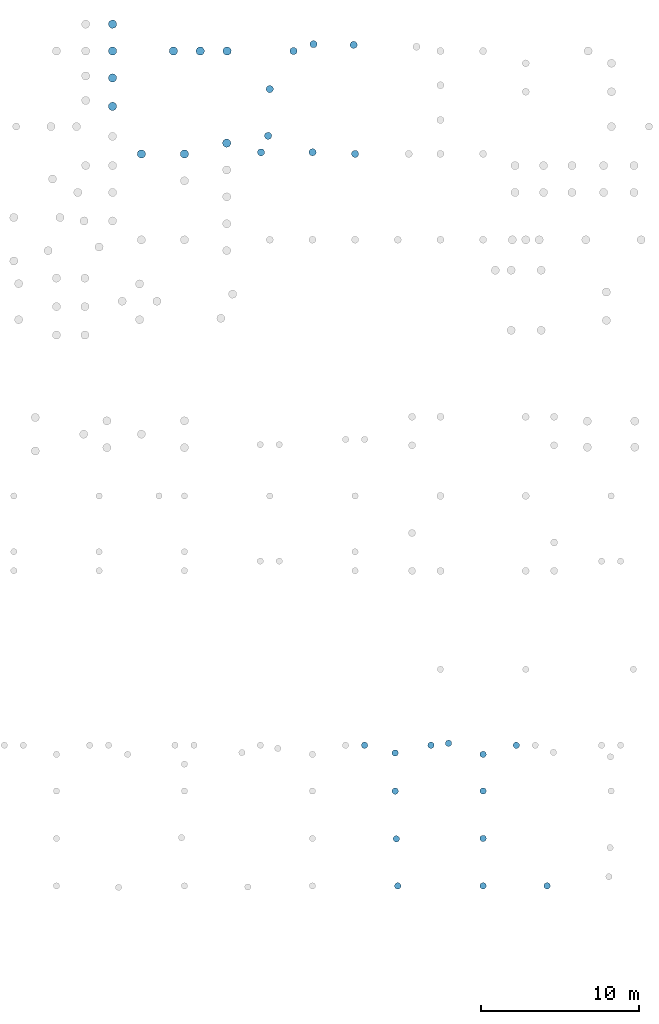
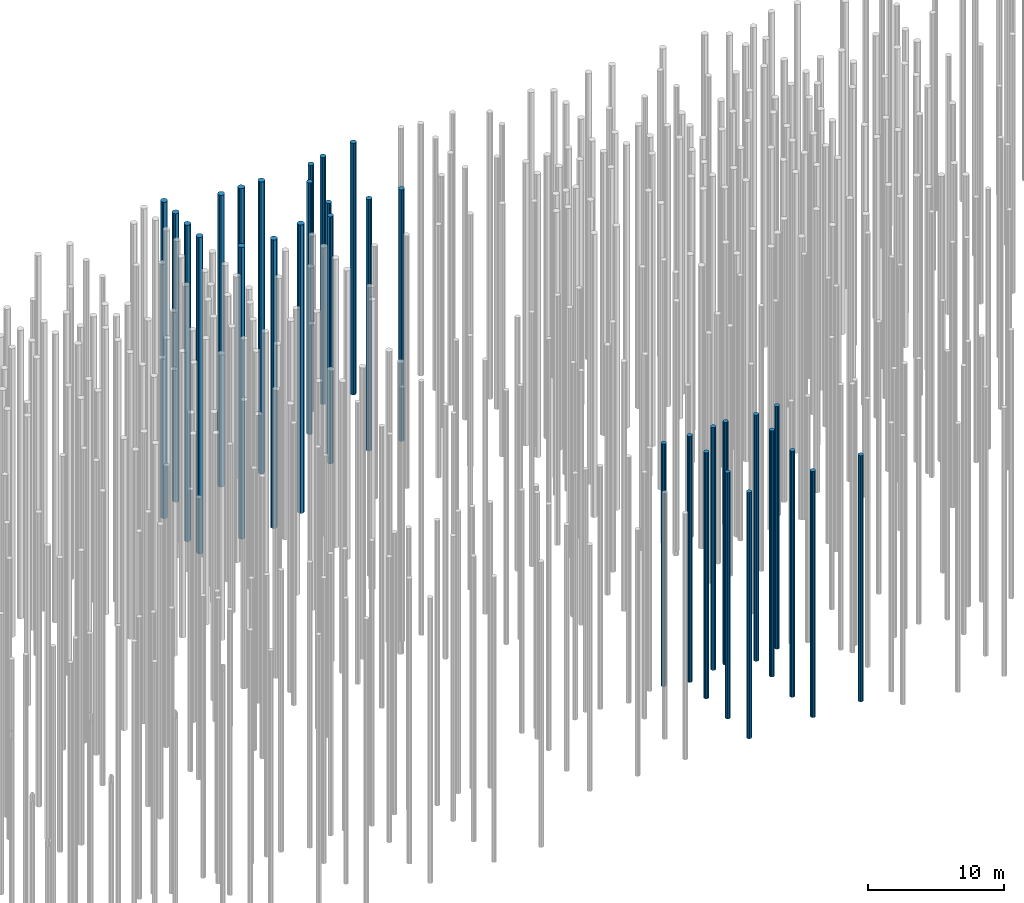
# One storey, part 10 of 20: 31 piles.
"""IFC2X3 building model written with IfcOpenShell, lengths in millimetres."""

from ifc_helpers import new_model, entity, si_unit, converted_unit, derived_unit, direction, frame, origin, place, context, subcontext, project, spatial, polyline, outline, extrude, material, element, save


model = new_model("IFC2X3")

# Units and contexts
model_context = context("Model", 3, precision=0.01, world=origin(), true_north=direction((6.12303176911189e-17, 1.0)))
body_context = subcontext(model_context, "Body", "Model", "MODEL_VIEW")
ifc_project = project(units=[si_unit("LENGTHUNIT", "METRE", prefix="MILLI"), si_unit("AREAUNIT", "SQUARE_METRE"), si_unit("VOLUMEUNIT", "CUBIC_METRE"), converted_unit("PLANEANGLEUNIT", "DEGREE", entity("IfcRatioMeasure", 0.0174532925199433), si_unit("PLANEANGLEUNIT", "RADIAN"), dimensions=[0, 0, 0, 0, 0, 0, 0]), si_unit("MASSUNIT", "GRAM", prefix="KILO"), derived_unit("MASSDENSITYUNIT", [(si_unit("MASSUNIT", "GRAM", prefix="KILO"), 1), (si_unit("LENGTHUNIT", "METRE"), -3)]), si_unit("TIMEUNIT", "SECOND"), si_unit("FREQUENCYUNIT", "HERTZ"), si_unit("THERMODYNAMICTEMPERATUREUNIT", "DEGREE_CELSIUS"), derived_unit("THERMALTRANSMITTANCEUNIT", [(si_unit("MASSUNIT", "GRAM", prefix="KILO"), 1), (si_unit("THERMODYNAMICTEMPERATUREUNIT", "KELVIN"), -1), (si_unit("TIMEUNIT", "SECOND"), -3)]), derived_unit("VOLUMETRICFLOWRATEUNIT", [(si_unit("LENGTHUNIT", "METRE"), 3), (si_unit("TIMEUNIT", "SECOND"), -1)]), si_unit("ELECTRICCURRENTUNIT", "AMPERE"), si_unit("ELECTRICVOLTAGEUNIT", "VOLT"), si_unit("POWERUNIT", "WATT"), si_unit("FORCEUNIT", "NEWTON", prefix="KILO"), si_unit("ILLUMINANCEUNIT", "LUX"), si_unit("LUMINOUSFLUXUNIT", "LUMEN"), si_unit("LUMINOUSINTENSITYUNIT", "CANDELA"), derived_unit("USERDEFINED", [(si_unit("MASSUNIT", "GRAM", prefix="KILO"), -1), (si_unit("LENGTHUNIT", "METRE"), -2), (si_unit("TIMEUNIT", "SECOND"), 3), (si_unit("LUMINOUSFLUXUNIT", "LUMEN"), 1)]), derived_unit("LINEARVELOCITYUNIT", [(si_unit("LENGTHUNIT", "METRE"), 1), (si_unit("TIMEUNIT", "SECOND"), -1)]), si_unit("PRESSUREUNIT", "PASCAL"), derived_unit("USERDEFINED", [(si_unit("LENGTHUNIT", "METRE"), -2), (si_unit("MASSUNIT", "GRAM", prefix="KILO"), 1), (si_unit("TIMEUNIT", "SECOND"), -2)])], contexts=[model_context])

# Site, building, storey
site_placement = place(None, origin())
site = spatial("IfcSite", under=ifc_project, at=site_placement, Name="Default", CompositionType="ELEMENT")
building_placement = place(site_placement, origin())
building = spatial("IfcBuilding", under=site, at=building_placement, Name="niet gebruiken", CompositionType="ELEMENT")
storey_placement = place(building_placement, frame((0.0, 0.0, -4000.0)))
storey = spatial("IfcBuildingStorey", under=building, at=storey_placement, Name="Level t.b.v. palenplan", CompositionType="ELEMENT", Elevation=-4000.0)

# Piles
ifc_material = material(Name="NLRS_f2_beton ihwg")
pile_1_placement = place(storey_placement, origin())
element("IfcPile", 1, at=pile_1_placement, inside=storey, material=ifc_material, Name="NLRS_17.12_SFO_TLB_funderingspaal grondverdringend_gen:Fundex_r410/500", ObjectType="NLRS_17.12_SFO_TLB_funderingspaal grondverdringend_gen:Fundex_r410/500", context=body_context, shape_type="SweptSolid", body=[
    extrude(outline(polyline([(-49.0597111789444, -199.043072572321), (49.0597111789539, -199.043072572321), (135.940144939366, -153.444703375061), (191.678329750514, -72.6940018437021), (203.505319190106, 24.7100194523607), (168.711692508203, 116.4532730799), (95.268250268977, 181.518485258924), (49.0597111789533, 199.043072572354), (-49.0597111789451, 199.043072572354), (-135.940144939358, 153.444703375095), (-191.678329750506, 72.6940018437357), (-203.505319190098, -24.710019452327), (-168.711692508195, -116.453273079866), (-95.2682502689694, -181.51848525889), (-49.0597111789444, -199.043072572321)])), frame((67500.0, 300.0, -19100.0), z_axis=(0.0, 0.0, 1.0), x_axis=(0.239315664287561, -0.970941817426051, 0.0)), (0.0, 0.0, 1.0), 22028.0),
])
pile_2_placement = place(storey_placement, origin())
element("IfcPile", 2, at=pile_2_placement, inside=storey, material=ifc_material, Name="NLRS_17.12_SFO_TLB_funderingspaal grondverdringend_gen:Fundex_r410/500", ObjectType="NLRS_17.12_SFO_TLB_funderingspaal grondverdringend_gen:Fundex_r410/500", context=body_context, shape_type="SweptSolid", body=[
    extrude(outline(polyline([(-49.0597111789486, -199.043072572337), (49.0597111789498, -199.043072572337), (135.940144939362, -153.444703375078), (191.67832975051, -72.6940018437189), (203.505319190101, 24.7100194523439), (168.711692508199, 116.453273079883), (95.2682502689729, 181.518485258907), (49.0597111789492, 199.043072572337), (-49.0597111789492, 199.043072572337), (-135.940144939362, 153.444703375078), (-191.67832975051, 72.6940018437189), (-203.505319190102, -24.7100194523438), (-168.711692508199, -116.453273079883), (-95.2682502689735, -181.518485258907), (-49.0597111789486, -199.043072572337)])), frame((72900.0, 300.0, -19100.0), z_axis=(0.0, 0.0, 1.0), x_axis=(0.239315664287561, -0.970941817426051, 0.0)), (0.0, 0.0, 1.0), 22028.0),
])
pile_3_placement = place(storey_placement, origin())
element("IfcPile", 3, at=pile_3_placement, inside=storey, material=ifc_material, Name="NLRS_17.12_SFO_TLB_funderingspaal grondverdringend_gen:Fundex_r410/500", ObjectType="NLRS_17.12_SFO_TLB_funderingspaal grondverdringend_gen:Fundex_r410/500", context=body_context, shape_type="SweptSolid", body=[
    extrude(outline(polyline([(-49.0597111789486, -199.043072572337), (49.0597111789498, -199.043072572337), (135.940144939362, -153.444703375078), (191.67832975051, -72.6940018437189), (203.505319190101, 24.7100194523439), (168.711692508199, 116.453273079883), (95.2682502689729, 181.518485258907), (49.0597111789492, 199.043072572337), (-49.0597111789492, 199.043072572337), (-135.940144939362, 153.444703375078), (-191.67832975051, 72.6940018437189), (-203.505319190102, -24.7100194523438), (-168.711692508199, -116.453273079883), (-95.2682502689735, -181.518485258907), (-49.0597111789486, -199.043072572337)])), frame((76950.0, 300.0, -19100.0), z_axis=(0.0, 0.0, 1.0), x_axis=(0.239315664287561, -0.970941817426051, 0.0)), (0.0, 0.0, 1.0), 22028.0),
])
pile_4_placement = place(storey_placement, origin())
element("IfcPile", 4, at=pile_4_placement, inside=storey, material=ifc_material, Name="NLRS_17.12_SFO_TLB_funderingspaal grondverdringend_gen:Fundex_r410/500", ObjectType="NLRS_17.12_SFO_TLB_funderingspaal grondverdringend_gen:Fundex_r410/500", context=body_context, shape_type="SweptSolid", body=[
    extrude(outline(polyline([(-49.0597111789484, -199.043072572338), (49.0597111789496, -199.043072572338), (135.940144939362, -153.444703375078), (191.67832975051, -72.6940018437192), (203.505319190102, 24.7100194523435), (168.711692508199, 116.453273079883), (95.2682502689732, 181.518485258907), (49.0597111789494, 199.043072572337), (-49.0597111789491, 199.043072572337), (-135.940144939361, 153.444703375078), (-191.678329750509, 72.6940018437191), (-203.505319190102, -24.7100194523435), (-168.711692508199, -116.453273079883), (-95.2682502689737, -181.518485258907), (-49.0597111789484, -199.043072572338)])), frame((67408.0005445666, 3276.01681129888, -19100.0), z_axis=(0.0, 0.0, 1.0), x_axis=(0.239315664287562, -0.970941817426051, 0.0)), (0.0, 0.0, 1.0), 22028.0),
])
pile_5_placement = place(storey_placement, origin())
element("IfcPile", 5, at=pile_5_placement, inside=storey, material=ifc_material, Name="NLRS_17.12_SFO_TLB_funderingspaal grondverdringend_gen:Fundex_r410/500", ObjectType="NLRS_17.12_SFO_TLB_funderingspaal grondverdringend_gen:Fundex_r410/500", context=body_context, shape_type="SweptSolid", body=[
    extrude(outline(polyline([(-49.0597111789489, -199.043072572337), (49.0597111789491, -199.043072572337), (135.940144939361, -153.444703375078), (191.678329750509, -72.6940018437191), (203.505319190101, 24.7100194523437), (168.711692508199, 116.453273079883), (95.2682502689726, 181.518485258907), (49.0597111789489, 199.043072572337), (-49.0597111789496, 199.043072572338), (-135.940144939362, 153.444703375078), (-191.67832975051, 72.6940018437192), (-203.505319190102, -24.7100194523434), (-168.7116925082, -116.453273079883), (-95.2682502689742, -181.518485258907), (-49.0597111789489, -199.043072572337)])), frame((72900.0, 3300.0, -19100.0), z_axis=(0.0, 0.0, 1.0), x_axis=(0.239315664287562, -0.970941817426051, 0.0)), (0.0, 0.0, 1.0), 22028.0),
])
pile_6_placement = place(storey_placement, origin())
element("IfcPile", 6, at=pile_6_placement, inside=storey, material=ifc_material, Name="NLRS_17.12_SFO_TLB_funderingspaal grondverdringend_gen:Fundex_r410/500", ObjectType="NLRS_17.12_SFO_TLB_funderingspaal grondverdringend_gen:Fundex_r410/500", context=body_context, shape_type="SweptSolid", body=[
    extrude(outline(polyline([(-49.0597111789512, -199.043072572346), (49.0597111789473, -199.043072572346), (135.940144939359, -153.444703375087), (191.678329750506, -72.6940018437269), (203.505319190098, 24.7100194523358), (168.711692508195, 116.453273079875), (95.2682502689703, 181.518485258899), (49.0597111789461, 199.043072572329), (-49.0597111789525, 199.043072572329), (-135.940144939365, 153.44470337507), (-191.678329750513, 72.6940018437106), (-203.505319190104, -24.7100194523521), (-168.711692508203, -116.453273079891), (-95.2682502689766, -181.518485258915), (-49.0597111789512, -199.043072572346)])), frame((67339.1542056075, 6289.50292056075, -19100.0), z_axis=(0.0, 0.0, 1.0), x_axis=(0.239315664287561, -0.970941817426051, 0.0)), (0.0, 0.0, 1.0), 22028.0),
])
pile_7_placement = place(storey_placement, origin())
element("IfcPile", 7, at=pile_7_placement, inside=storey, material=ifc_material, Name="NLRS_17.12_SFO_TLB_funderingspaal grondverdringend_gen:Fundex_r410/500", ObjectType="NLRS_17.12_SFO_TLB_funderingspaal grondverdringend_gen:Fundex_r410/500", context=body_context, shape_type="SweptSolid", body=[
    extrude(outline(polyline([(-49.0597111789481, -199.043072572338), (49.0597111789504, -199.043072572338), (135.940144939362, -153.444703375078), (191.67832975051, -72.6940018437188), (203.505319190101, 24.7100194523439), (168.711692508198, 116.453273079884), (95.2682502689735, 181.518485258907), (49.0597111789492, 199.043072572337), (-49.0597111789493, 199.043072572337), (-135.940144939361, 153.444703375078), (-191.67832975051, 72.6940018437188), (-203.505319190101, -24.7100194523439), (-168.711692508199, -116.453273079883), (-95.2682502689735, -181.518485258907), (-49.0597111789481, -199.043072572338)])), frame((72900.0, 6300.0, -19100.0), z_axis=(0.0, 0.0, 1.0), x_axis=(0.239315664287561, -0.970941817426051, 0.0)), (0.0, 0.0, 1.0), 22028.0),
])
pile_8_placement = place(storey_placement, origin())
element("IfcPile", 8, at=pile_8_placement, inside=storey, material=ifc_material, Name="NLRS_17.12_SFO_TLB_funderingspaal grondverdringend_gen:Fundex_r410/500", ObjectType="NLRS_17.12_SFO_TLB_funderingspaal grondverdringend_gen:Fundex_r410/500", context=body_context, shape_type="SweptSolid", body=[
    extrude(outline(polyline([(-49.0597111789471, -199.043072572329), (49.0597111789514, -199.043072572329), (135.940144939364, -153.44470337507), (191.678329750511, -72.6940018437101), (203.505319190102, 24.7100194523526), (168.711692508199, 116.453273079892), (95.2682502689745, 181.518485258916), (49.0597111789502, 199.043072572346), (-49.0597111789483, 199.043072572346), (-135.94014493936, 153.444703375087), (-191.678329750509, 72.6940018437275), (-203.5053191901, -24.7100194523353), (-168.711692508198, -116.453273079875), (-95.2682502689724, -181.518485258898), (-49.0597111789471, -199.043072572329)])), frame((67332.1643890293, 8710.69831600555, -19100.0), z_axis=(0.0, 0.0, 1.0), x_axis=(0.239315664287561, -0.970941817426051, 0.0)), (0.0, 0.0, 1.0), 22028.0),
])
pile_9_placement = place(storey_placement, origin())
element("IfcPile", 9, at=pile_9_placement, inside=storey, material=ifc_material, Name="NLRS_17.12_SFO_TLB_funderingspaal grondverdringend_gen:Fundex_r410/500", ObjectType="NLRS_17.12_SFO_TLB_funderingspaal grondverdringend_gen:Fundex_r410/500", context=body_context, shape_type="SweptSolid", body=[
    extrude(outline(polyline([(-49.0597111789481, -199.043072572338), (49.0597111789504, -199.043072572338), (135.940144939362, -153.444703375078), (191.67832975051, -72.6940018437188), (203.505319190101, 24.7100194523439), (168.711692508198, 116.453273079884), (95.2682502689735, 181.518485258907), (49.0597111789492, 199.043072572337), (-49.0597111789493, 199.043072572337), (-135.940144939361, 153.444703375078), (-191.67832975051, 72.6940018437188), (-203.505319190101, -24.7100194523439), (-168.711692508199, -116.453273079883), (-95.2682502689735, -181.518485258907), (-49.0597111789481, -199.043072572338)])), frame((72900.0, 8621.0, -19100.0), z_axis=(0.0, 0.0, 1.0), x_axis=(0.239315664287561, -0.970941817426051, 0.0)), (0.0, 0.0, 1.0), 22028.0),
])
pile_10_placement = place(storey_placement, origin())
element("IfcPile", 10, at=pile_10_placement, inside=storey, material=ifc_material, Name="NLRS_17.12_SFO_TLB_funderingspaal grondverdringend_gen:Fundex_r530/650", ObjectType="NLRS_17.12_SFO_TLB_funderingspaal grondverdringend_gen:Fundex_r530/650", context=body_context, shape_type="SweptSolid", body=[
    extrude(outline(polyline([(-55.0965980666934, -259.209114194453), (55.0965980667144, -259.209114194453), (155.763091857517, -214.389503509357), (229.49673200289, -132.499999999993), (263.548302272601, -27.70004276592), (252.029976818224, 81.889503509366), (196.93337875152, 177.319610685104), (107.785210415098, 242.089546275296), (55.0965980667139, 259.209114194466), (-55.0965980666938, 259.209114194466), (-155.763091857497, 214.38950350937), (-229.496732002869, 132.500000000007), (-263.54830227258, 27.7000427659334), (-252.029976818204, -81.8895035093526), (-196.933378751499, -177.319610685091), (-107.785210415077, -242.089546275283), (-55.0965980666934, -259.209114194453)])), frame((56675.0, 47304.0, -23600.0), z_axis=(0.0, 0.0, 1.0), x_axis=(-0.978147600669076, -0.207911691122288, 0.0)), (0.0, 0.0, 1.0), 25828.0),
])
pile_11_placement = place(storey_placement, origin())
element("IfcPile", 11, at=pile_11_placement, inside=storey, material=ifc_material, Name="NLRS_17.12_SFO_TLB_funderingspaal grondverdringend_gen:Fundex_r530/650", ObjectType="NLRS_17.12_SFO_TLB_funderingspaal grondverdringend_gen:Fundex_r530/650", context=body_context, shape_type="SweptSolid", body=[
    extrude(outline(polyline([(-55.0965980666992, -259.20911419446), (55.096598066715, -259.20911419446), (155.763091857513, -214.389503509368), (229.496732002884, -132.500000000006), (263.548302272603, -27.7000427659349), (252.029976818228, 81.8895035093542), (196.933378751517, 177.319610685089), (107.785210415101, 242.089546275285), (55.0965980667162, 259.209114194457), (-55.096598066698, 259.209114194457), (-155.763091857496, 214.389503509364), (-229.496732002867, 132.500000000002), (-263.548302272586, 27.7000427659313), (-252.029976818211, -81.8895035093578), (-196.9333787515, -177.319610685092), (-107.785210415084, -242.089546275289), (-55.0965980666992, -259.20911419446)])), frame((54000.0, 46621.0, -23600.0), z_axis=(0.0, 0.0, 1.0), x_axis=(-0.978147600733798, -0.207911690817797, 0.0)), (0.0, 0.0, 1.0), 25828.0),
])
pile_12_placement = place(storey_placement, origin())
element("IfcPile", 12, at=pile_12_placement, inside=storey, material=ifc_material, Name="NLRS_17.12_SFO_TLB_funderingspaal grondverdringend_gen:Fundex_r530/650", ObjectType="NLRS_17.12_SFO_TLB_funderingspaal grondverdringend_gen:Fundex_r530/650", context=body_context, shape_type="SweptSolid", body=[
    extrude(outline(polyline([(-55.0965980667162, -259.209114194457), (55.096598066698, -259.209114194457), (155.763091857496, -214.389503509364), (229.496732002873, -132.500000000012), (263.548302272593, -27.7000427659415), (252.029976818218, 81.8895035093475), (196.933378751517, 177.319610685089), (107.785210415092, 242.089546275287), (55.0965980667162, 259.209114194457), (-55.096598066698, 259.209114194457), (-155.763091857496, 214.389503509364), (-229.496732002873, 132.500000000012), (-263.548302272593, 27.7000427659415), (-252.029976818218, -81.8895035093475), (-196.933378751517, -177.319610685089), (-107.785210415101, -242.089546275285), (-55.0965980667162, -259.209114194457)])), frame((51275.0, 46621.0, -23600.0), z_axis=(0.0, 0.0, 1.0), x_axis=(-0.978147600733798, -0.207911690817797, 0.0)), (0.0, 0.0, 1.0), 26128.0),
])
pile_13_placement = place(storey_placement, origin())
element("IfcPile", 13, at=pile_13_placement, inside=storey, material=ifc_material, Name="NLRS_17.12_SFO_TLB_funderingspaal grondverdringend_gen:Fundex_r530/650", ObjectType="NLRS_17.12_SFO_TLB_funderingspaal grondverdringend_gen:Fundex_r530/650", context=body_context, shape_type="SweptSolid", body=[
    extrude(outline(polyline([(-55.0965980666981, -259.20911419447), (55.0965980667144, -259.20911419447), (155.763091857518, -214.389503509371), (229.496732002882, -132.500000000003), (263.548302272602, -27.7000427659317), (252.029976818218, 81.8895035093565), (196.93337875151, 177.319610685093), (107.785210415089, 242.089546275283), (55.0965980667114, 259.209114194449), (-55.096598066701, 259.209114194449), (-155.763091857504, 214.389503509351), (-229.496732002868, 132.499999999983), (-263.548302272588, 27.7000427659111), (-252.029976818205, -81.8895035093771), (-196.933378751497, -177.319610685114), (-107.785210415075, -242.089546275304), (-55.0965980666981, -259.20911419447)])), frame((56700.0, 53131.0, -23600.0), z_axis=(0.0, 0.0, 1.0), x_axis=(-0.978147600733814, -0.207911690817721, 0.0)), (0.0, 0.0, 1.0), 26128.0),
])
pile_14_placement = place(storey_placement, origin())
element("IfcPile", 14, at=pile_14_placement, inside=storey, material=ifc_material, Name="NLRS_17.12_SFO_TLB_funderingspaal grondverdringend_gen:Fundex_r530/650", ObjectType="NLRS_17.12_SFO_TLB_funderingspaal grondverdringend_gen:Fundex_r530/650", context=body_context, shape_type="SweptSolid", body=[
    extrude(outline(polyline([(-55.0965980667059, -259.20911419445), (55.0965980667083, -259.20911419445), (155.763091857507, -214.389503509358), (229.496732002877, -132.499999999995), (263.548302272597, -27.7000427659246), (252.029976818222, 81.8895035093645), (196.933378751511, 177.319610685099), (107.785210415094, 242.089546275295), (55.0965980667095, 259.209114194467), (-55.0965980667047, 259.209114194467), (-155.763091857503, 214.389503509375), (-229.496732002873, 132.500000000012), (-263.548302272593, 27.7000427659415), (-252.029976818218, -81.8895035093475), (-196.933378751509, -177.31961068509), (-107.78521041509, -242.089546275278), (-55.0965980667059, -259.20911419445)])), frame((53300.0, 53131.0, -23600.0), z_axis=(0.0, 0.0, 1.0), x_axis=(-0.978147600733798, -0.207911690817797, 0.0)), (0.0, 0.0, 1.0), 26128.0),
])
pile_15_placement = place(storey_placement, origin())
element("IfcPile", 15, at=pile_15_placement, inside=storey, material=ifc_material, Name="NLRS_17.12_SFO_TLB_funderingspaal grondverdringend_gen:Fundex_r530/650", ObjectType="NLRS_17.12_SFO_TLB_funderingspaal grondverdringend_gen:Fundex_r530/650", context=body_context, shape_type="SweptSolid", body=[
    extrude(outline(polyline([(-55.0965980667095, -259.209114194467), (55.0965980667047, -259.209114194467), (155.763091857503, -214.389503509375), (229.49673200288, -132.500000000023), (263.5483022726, -27.7000427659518), (252.029976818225, 81.8895035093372), (196.933378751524, 177.319610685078), (107.785210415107, 242.089546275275), (55.0965980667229, 259.209114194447), (-55.0965980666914, 259.209114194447), (-155.76309185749, 214.389503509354), (-229.496732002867, 132.500000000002), (-263.548302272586, 27.7000427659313), (-252.029976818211, -81.8895035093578), (-196.933378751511, -177.319610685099), (-107.785210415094, -242.089546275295), (-55.0965980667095, -259.209114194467)])), frame((49450.0, 49631.0, -26100.0), z_axis=(0.0, 0.0, 1.0), x_axis=(-0.978147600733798, -0.207911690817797, 0.0)), (0.0, 0.0, 1.0), 28328.0),
])
pile_16_placement = place(storey_placement, origin())
element("IfcPile", 16, at=pile_16_placement, inside=storey, material=ifc_material, Name="NLRS_17.12_SFO_TLB_funderingspaal grondverdringend_gen:Fundex_r530/650", ObjectType="NLRS_17.12_SFO_TLB_funderingspaal grondverdringend_gen:Fundex_r530/650", context=body_context, shape_type="SweptSolid", body=[
    extrude(outline(polyline([(-55.0965980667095, -259.209114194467), (55.0965980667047, -259.209114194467), (155.763091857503, -214.389503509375), (229.49673200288, -132.500000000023), (263.5483022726, -27.7000427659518), (252.029976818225, 81.8895035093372), (196.933378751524, 177.319610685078), (107.785210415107, 242.089546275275), (55.0965980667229, 259.209114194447), (-55.0965980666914, 259.209114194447), (-155.76309185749, 214.389503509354), (-229.496732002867, 132.500000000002), (-263.548302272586, 27.7000427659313), (-252.029976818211, -81.8895035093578), (-196.933378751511, -177.319610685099), (-107.785210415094, -242.089546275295), (-55.0965980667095, -259.209114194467)])), frame((49450.0, 51431.0, -26100.0), z_axis=(0.0, 0.0, 1.0), x_axis=(-0.978147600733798, -0.207911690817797, 0.0)), (0.0, 0.0, 1.0), 28328.0),
])
pile_17_placement = place(storey_placement, origin())
element("IfcPile", 17, at=pile_17_placement, inside=storey, material=ifc_material, Name="NLRS_17.12_SFO_TLB_funderingspaal grondverdringend_gen:Fundex_r530/650", ObjectType="NLRS_17.12_SFO_TLB_funderingspaal grondverdringend_gen:Fundex_r530/650", context=body_context, shape_type="SweptSolid", body=[
    extrude(outline(polyline([(-55.0965980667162, -259.209114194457), (55.096598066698, -259.209114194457), (155.763091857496, -214.389503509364), (229.496732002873, -132.500000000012), (263.548302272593, -27.7000427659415), (252.029976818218, 81.8895035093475), (196.933378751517, 177.319610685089), (107.785210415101, 242.089546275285), (55.0965980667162, 259.209114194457), (-55.096598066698, 259.209114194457), (-155.763091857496, 214.389503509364), (-229.496732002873, 132.500000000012), (-263.548302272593, 27.7000427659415), (-252.029976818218, -81.8895035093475), (-196.933378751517, -177.319610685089), (-107.785210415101, -242.089546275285), (-55.0965980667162, -259.209114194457)])), frame((49450.0, 53131.0, -23600.0), z_axis=(0.0, 0.0, 1.0), x_axis=(-0.978147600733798, -0.207911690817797, 0.0)), (0.0, 0.0, 1.0), 25828.0),
])
pile_18_placement = place(storey_placement, origin())
element("IfcPile", 18, at=pile_18_placement, inside=storey, material=ifc_material, Name="NLRS_17.12_SFO_TLB_funderingspaal grondverdringend_gen:Fundex_r410/500", ObjectType="NLRS_17.12_SFO_TLB_funderingspaal grondverdringend_gen:Fundex_r410/500", context=body_context, shape_type="SweptSolid", body=[
    extrude(outline(polyline([(-49.0597111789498, -199.043072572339), (49.059711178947, -199.043072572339), (135.94014493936, -153.444703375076), (191.678329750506, -72.6940018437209), (203.505319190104, 24.7100194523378), (168.7116925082, 116.453273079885), (95.2682502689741, 181.518485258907), (49.0597111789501, 199.04307257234), (-49.0597111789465, 199.043072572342), (-135.94014493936, 153.444703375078), (-191.678329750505, 72.694001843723), (-203.505319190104, -24.7100194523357), (-168.7116925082, -116.453273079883), (-95.2682502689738, -181.518485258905), (-49.0597111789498, -199.043072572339)])), frame((65400.0, 9196.0, -19100.0), z_axis=(0.0, 0.0, 1.0), x_axis=(-0.970941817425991, -0.239315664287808, 0.0)), (0.0, 0.0, 1.0), 21720.0),
])
pile_19_placement = place(storey_placement, origin())
element("IfcPile", 19, at=pile_19_placement, inside=storey, material=ifc_material, Name="NLRS_17.12_SFO_TLB_funderingspaal grondverdringend_gen:Fundex_r410/500", ObjectType="NLRS_17.12_SFO_TLB_funderingspaal grondverdringend_gen:Fundex_r410/500", context=body_context, shape_type="SweptSolid", body=[
    extrude(outline(polyline([(-49.0597111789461, -199.043072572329), (49.0597111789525, -199.043072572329), (135.940144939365, -153.44470337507), (191.678329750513, -72.6940018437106), (203.505319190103, 24.7100194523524), (168.7116925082, 116.453273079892), (95.2682502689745, 181.518485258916), (49.0597111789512, 199.043072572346), (-49.0597111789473, 199.043072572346), (-135.940144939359, 153.444703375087), (-191.678329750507, 72.6940018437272), (-203.505319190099, -24.7100194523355), (-168.711692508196, -116.453273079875), (-95.2682502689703, -181.518485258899), (-49.0597111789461, -199.043072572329)])), frame((69600.0, 9196.0, -19100.0), z_axis=(0.0, 0.0, 1.0), x_axis=(0.239315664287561, -0.970941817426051, 0.0)), (0.0, 0.0, 1.0), 21720.0),
])
pile_20_placement = place(storey_placement, origin())
element("IfcPile", 20, at=pile_20_placement, inside=storey, material=ifc_material, Name="NLRS_17.12_SFO_TLB_funderingspaal grondverdringend_gen:Fundex_r410/500", ObjectType="NLRS_17.12_SFO_TLB_funderingspaal grondverdringend_gen:Fundex_r410/500", context=body_context, shape_type="SweptSolid", body=[
    extrude(outline(polyline([(-49.0597111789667, -199.043072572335), (49.0597111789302, -199.043072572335), (135.940144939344, -153.444703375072), (191.678329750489, -72.6940018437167), (203.505319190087, 24.7100194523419), (168.711692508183, 116.453273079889), (95.2682502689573, 181.518485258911), (49.0597111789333, 199.043072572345), (-49.0597111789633, 199.043072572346), (-135.940144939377, 153.444703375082), (-191.678329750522, 72.6940018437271), (-203.505319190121, -24.7100194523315), (-168.711692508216, -116.453273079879), (-95.2682502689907, -181.518485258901), (-49.0597111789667, -199.043072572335)])), frame((70714.346699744, 9321.73607050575, -19100.0), z_axis=(0.0, 0.0, 1.0), x_axis=(-0.970941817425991, -0.239315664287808, 0.0)), (0.0, 0.0, 1.0), 21720.0),
])
pile_21_placement = place(storey_placement, origin())
element("IfcPile", 21, at=pile_21_placement, inside=storey, material=ifc_material, Name="NLRS_17.12_SFO_TLB_funderingspaal grondverdringend_gen:Fundex_r410/500", ObjectType="NLRS_17.12_SFO_TLB_funderingspaal grondverdringend_gen:Fundex_r410/500", context=body_context, shape_type="SweptSolid", body=[
    extrude(outline(polyline([(-49.0597111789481, -199.043072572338), (49.0597111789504, -199.043072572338), (135.940144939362, -153.444703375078), (191.678329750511, -72.6940018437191), (203.505319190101, 24.7100194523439), (168.711692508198, 116.453273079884), (95.2682502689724, 181.518485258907), (49.0597111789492, 199.043072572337), (-49.0597111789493, 199.043072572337), (-135.940144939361, 153.444703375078), (-191.67832975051, 72.6940018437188), (-203.505319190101, -24.7100194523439), (-168.711692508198, -116.453273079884), (-95.2682502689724, -181.518485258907), (-49.0597111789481, -199.043072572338)])), frame((75000.0, 9196.0, -19100.0), z_axis=(0.0, 0.0, 1.0), x_axis=(0.239315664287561, -0.970941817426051, 0.0)), (0.0, 0.0, 1.0), 21720.0),
])
pile_22_placement = place(storey_placement, origin())
element("IfcPile", 22, at=pile_22_placement, inside=storey, material=ifc_material, Name="NLRS_17.12_SFO_TLB_funderingspaal grondverdringend_gen:Fundex_r460/560", ObjectType="NLRS_17.12_SFO_TLB_funderingspaal grondverdringend_gen:Fundex_r460/560", context=body_context, shape_type="SweptSolid", body=[
    extrude(outline(polyline([(-25.7518295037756, -228.553808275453), (25.7518295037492, -228.553808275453), (122.367377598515, -194.746565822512), (194.746565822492, -122.367377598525), (228.553808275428, -25.751829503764), (217.093165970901, 75.9641842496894), (162.634559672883, 162.634559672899), (75.964184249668, 217.093165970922), (25.7518295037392, 228.553808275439), (-25.7518295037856, 228.553808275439), (-122.367377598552, 194.746565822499), (-194.746565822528, 122.367377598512), (-228.553808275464, 25.7518295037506), (-217.093165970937, -75.9641842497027), (-162.634559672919, -162.634559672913), (-75.9641842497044, -217.093165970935), (-25.7518295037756, -228.553808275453)])), frame((62168.0051235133, 53568.8345837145, -19600.0), z_axis=(0.0, 0.0, 1.0), x_axis=(0.111964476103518, -0.993712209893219, 0.0)), (0.0, 0.0, 1.0), 22128.0),
])
pile_23_placement = place(storey_placement, origin())
element("IfcPile", 23, at=pile_23_placement, inside=storey, material=ifc_material, Name="NLRS_17.12_SFO_TLB_funderingspaal grondverdringend_gen:Fundex_r460/560", ObjectType="NLRS_17.12_SFO_TLB_funderingspaal grondverdringend_gen:Fundex_r460/560", context=body_context, shape_type="SweptSolid", body=[
    extrude(outline(polyline([(-25.7518295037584, -228.553808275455), (25.7518295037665, -228.553808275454), (122.367377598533, -194.746565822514), (194.746565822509, -122.367377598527), (228.553808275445, -25.7518295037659), (217.093165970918, 75.9641842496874), (162.6345596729, 162.634559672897), (75.9641842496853, 217.09316597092), (25.7518295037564, 228.553808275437), (-25.7518295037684, 228.553808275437), (-122.367377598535, 194.746565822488), (-194.746565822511, 122.36737759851), (-228.553808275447, 25.7518295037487), (-217.09316597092, -75.9641842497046), (-162.634559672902, -162.634559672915), (-75.9641842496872, -217.093165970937), (-25.7518295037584, -228.553808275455)])), frame((64709.6608723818, 53523.7711077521, -19600.0), z_axis=(0.0, 0.0, 1.0), x_axis=(0.111964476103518, -0.993712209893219, 0.0)), (0.0, 0.0, 1.0), 22528.0),
])
pile_24_placement = place(storey_placement, origin())
element("IfcPile", 24, at=pile_24_placement, inside=storey, material=ifc_material, Name="NLRS_17.12_SFO_TLB_funderingspaal grondverdringend_gen:Fundex_r460/560", ObjectType="NLRS_17.12_SFO_TLB_funderingspaal grondverdringend_gen:Fundex_r460/560", context=body_context, shape_type="SweptSolid", body=[
    extrude(outline(polyline([(-25.7518295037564, -228.553808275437), (25.7518295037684, -228.553808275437), (122.367377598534, -194.746565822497), (194.746565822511, -122.36737759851), (228.553808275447, -25.7518295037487), (217.09316597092, 75.9641842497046), (162.634559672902, 162.634559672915), (75.9641842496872, 217.093165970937), (25.7518295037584, 228.553808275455), (-25.7518295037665, 228.553808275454), (-122.367377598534, 194.746565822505), (-194.746565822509, 122.367377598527), (-228.553808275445, 25.7518295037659), (-217.093165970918, -75.9641842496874), (-162.6345596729, -162.634559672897), (-75.9641842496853, -217.09316597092), (-25.7518295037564, -228.553808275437)])), frame((60900.0, 53131.0, -19600.0), z_axis=(0.0, 0.0, 1.0), x_axis=(0.111964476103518, -0.993712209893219, 0.0)), (0.0, 0.0, 1.0), 22128.0),
])
pile_25_placement = place(storey_placement, origin())
element("IfcPile", 25, at=pile_25_placement, inside=storey, material=ifc_material, Name="NLRS_17.12_SFO_TLB_funderingspaal grondverdringend_gen:Fundex_r460/560", ObjectType="NLRS_17.12_SFO_TLB_funderingspaal grondverdringend_gen:Fundex_r460/560", context=body_context, shape_type="SweptSolid", body=[
    extrude(outline(polyline([(-25.7518295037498, -228.553808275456), (25.7518295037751, -228.553808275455), (122.367377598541, -194.746565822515), (194.746565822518, -122.367377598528), (228.553808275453, -25.7518295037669), (217.093165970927, 75.9641842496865), (162.634559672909, 162.634559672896), (75.9641842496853, 217.09316597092), (25.751829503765, 228.553808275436), (-25.7518295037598, 228.553808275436), (-122.367377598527, 194.746565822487), (-194.746565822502, 122.367377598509), (-228.553808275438, 25.7518295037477), (-217.093165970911, -75.9641842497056), (-162.634559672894, -162.634559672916), (-75.9641842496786, -217.093165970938), (-25.7518295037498, -228.553808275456)])), frame((64800.0, 46621.0, -19600.0), z_axis=(0.0, 0.0, 1.0), x_axis=(0.111964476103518, -0.993712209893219, 0.0)), (0.0, 0.0, 1.0), 22518.0),
])
pile_26_placement = place(storey_placement, origin())
element("IfcPile", 26, at=pile_26_placement, inside=storey, material=ifc_material, Name="NLRS_17.12_SFO_TLB_funderingspaal grondverdringend_gen:Fundex_r460/560", ObjectType="NLRS_17.12_SFO_TLB_funderingspaal grondverdringend_gen:Fundex_r460/560", context=body_context, shape_type="SweptSolid", body=[
    extrude(outline(polyline([(-25.7518295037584, -228.553808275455), (25.7518295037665, -228.553808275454), (122.367377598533, -194.746565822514), (194.746565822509, -122.367377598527), (228.553808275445, -25.7518295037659), (217.093165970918, 75.9641842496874), (162.6345596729, 162.634559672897), (75.9641842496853, 217.09316597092), (25.7518295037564, 228.553808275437), (-25.7518295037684, 228.553808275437), (-122.367377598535, 194.746565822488), (-194.746565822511, 122.36737759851), (-228.553808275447, 25.7518295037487), (-217.09316597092, -75.9641842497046), (-162.634559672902, -162.634559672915), (-75.9641842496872, -217.093165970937), (-25.7518295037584, -228.553808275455)])), frame((62113.8467651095, 46726.6888299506, -19600.0), z_axis=(0.0, 0.0, 1.0), x_axis=(0.111964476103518, -0.993712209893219, 0.0)), (0.0, 0.0, 1.0), 22518.0),
])
pile_27_placement = place(storey_placement, origin())
element("IfcPile", 27, at=pile_27_placement, inside=storey, material=ifc_material, Name="NLRS_17.12_SFO_TLB_funderingspaal grondverdringend_gen:Fundex_r460/560", ObjectType="NLRS_17.12_SFO_TLB_funderingspaal grondverdringend_gen:Fundex_r460/560", context=body_context, shape_type="SweptSolid", body=[
    extrude(outline(polyline([(-25.7518295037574, -228.553808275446), (25.7518295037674, -228.553808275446), (122.367377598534, -194.746565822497), (194.74656582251, -122.367377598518), (228.553808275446, -25.7518295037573), (217.093165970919, 75.964184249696), (162.634559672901, 162.634559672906), (75.9641842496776, 217.09316597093), (25.7518295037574, 228.553808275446), (-25.7518295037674, 228.553808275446), (-122.367377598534, 194.746565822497), (-194.74656582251, 122.367377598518), (-228.553808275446, 25.7518295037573), (-217.093165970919, -75.964184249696), (-162.634559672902, -162.634559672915), (-75.9641842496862, -217.093165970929), (-25.7518295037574, -228.553808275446)])), frame((58847.2824200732, 46718.7169591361, -19600.0), z_axis=(0.0, 0.0, 1.0), x_axis=(0.111964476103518, -0.993712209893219, 0.0)), (0.0, 0.0, 1.0), 22128.0),
])
pile_28_placement = place(storey_placement, origin())
element("IfcPile", 28, at=pile_28_placement, inside=storey, material=ifc_material, Name="NLRS_17.12_SFO_TLB_funderingspaal grondverdringend_gen:Fundex_r460/560", ObjectType="NLRS_17.12_SFO_TLB_funderingspaal grondverdringend_gen:Fundex_r460/560", context=body_context, shape_type="SweptSolid", body=[
    extrude(outline(polyline([(-25.7518295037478, -228.553808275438), (25.751829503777, -228.553808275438), (122.367377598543, -194.746565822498), (194.746565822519, -122.367377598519), (228.553808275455, -25.7518295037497), (217.093165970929, 75.9641842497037), (162.634559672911, 162.634559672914), (75.9641842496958, 217.093165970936), (25.751829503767, 228.553808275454), (-25.7518295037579, 228.553808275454), (-122.367377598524, 194.746565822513), (-194.7465658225, 122.367377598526), (-228.553808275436, 25.7518295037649), (-217.093165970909, -75.9641842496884), (-162.634559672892, -162.634559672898), (-75.9641842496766, -217.093165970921), (-25.7518295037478, -228.553808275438)])), frame((59295.8435625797, 47764.2844066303, -19600.0), z_axis=(0.0, 0.0, 1.0), x_axis=(0.111964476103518, -0.993712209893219, 0.0)), (0.0, 0.0, 1.0), 22528.0),
])
pile_29_placement = place(storey_placement, origin())
element("IfcPile", 29, at=pile_29_placement, inside=storey, material=ifc_material, Name="NLRS_17.12_SFO_TLB_funderingspaal grondverdringend_gen:Fundex_r460/560", ObjectType="NLRS_17.12_SFO_TLB_funderingspaal grondverdringend_gen:Fundex_r460/560", context=body_context, shape_type="SweptSolid", body=[
    extrude(outline(polyline([(-25.751829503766, -228.553808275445), (25.7518295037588, -228.553808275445), (122.367377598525, -194.746565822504), (194.746565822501, -122.367377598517), (228.553808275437, -25.7518295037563), (217.09316597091, 75.964184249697), (162.634559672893, 162.634559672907), (75.9641842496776, 217.09316597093), (25.7518295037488, 228.553808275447), (-25.751829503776, 228.553808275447), (-122.367377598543, 194.746565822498), (-194.746565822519, 122.367377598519), (-228.553808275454, 25.7518295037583), (-217.093165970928, -75.9641842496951), (-162.63455967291, -162.634559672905), (-75.9641842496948, -217.093165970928), (-25.751829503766, -228.553808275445)])), frame((59400.0, 50721.0, -19600.0), z_axis=(0.0, 0.0, 1.0), x_axis=(0.111964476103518, -0.993712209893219, 0.0)), (0.0, 0.0, 1.0), 22528.0),
])
pile_30_placement = place(storey_placement, origin())
element("IfcPile", 30, at=pile_30_placement, inside=storey, material=ifc_material, Name="NLRS_17.12_SFO_TLB_funderingspaal grondverdringend_gen:Fundex_r530/650", ObjectType="NLRS_17.12_SFO_TLB_funderingspaal grondverdringend_gen:Fundex_r530/650", context=body_context, shape_type="SweptSolid", body=[
    extrude(outline(polyline([(-55.0965980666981, -259.20911419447), (55.0965980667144, -259.20911419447), (155.763091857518, -214.389503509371), (229.496732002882, -132.500000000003), (263.548302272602, -27.7000427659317), (252.029976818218, 81.8895035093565), (196.93337875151, 177.319610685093), (107.785210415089, 242.089546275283), (55.0965980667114, 259.209114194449), (-55.096598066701, 259.209114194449), (-155.763091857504, 214.389503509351), (-229.496732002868, 132.499999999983), (-263.548302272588, 27.7000427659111), (-252.029976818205, -81.8895035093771), (-196.933378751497, -177.319610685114), (-107.785210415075, -242.089546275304), (-55.0965980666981, -259.20911419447)])), frame((55000.0, 53131.0, -23600.0), z_axis=(0.0, 0.0, 1.0), x_axis=(-0.978147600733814, -0.207911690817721, 0.0)), (0.0, 0.0, 1.0), 26128.0),
])
pile_31_placement = place(storey_placement, origin())
element("IfcPile", 31, at=pile_31_placement, inside=storey, material=ifc_material, Name="NLRS_17.12_SFO_TLB_funderingspaal grondverdringend_gen:Fundex_r530/650", ObjectType="NLRS_17.12_SFO_TLB_funderingspaal grondverdringend_gen:Fundex_r530/650", context=body_context, shape_type="SweptSolid", body=[
    extrude(outline(polyline([(-55.0965980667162, -259.209114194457), (55.096598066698, -259.209114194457), (155.763091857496, -214.389503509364), (229.496732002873, -132.500000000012), (263.548302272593, -27.7000427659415), (252.029976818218, 81.8895035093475), (196.933378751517, 177.319610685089), (107.785210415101, 242.089546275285), (55.0965980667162, 259.209114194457), (-55.096598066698, 259.209114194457), (-155.763091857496, 214.389503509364), (-229.496732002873, 132.500000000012), (-263.548302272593, 27.7000427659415), (-252.029976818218, -81.8895035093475), (-196.933378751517, -177.319610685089), (-107.785210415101, -242.089546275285), (-55.0965980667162, -259.209114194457)])), frame((49450.0, 54831.0, -26100.0), z_axis=(0.0, 0.0, 1.0), x_axis=(-0.978147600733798, -0.207911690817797, 0.0)), (0.0, 0.0, 1.0), 28328.0),
])

save(model, "model.ifc")
